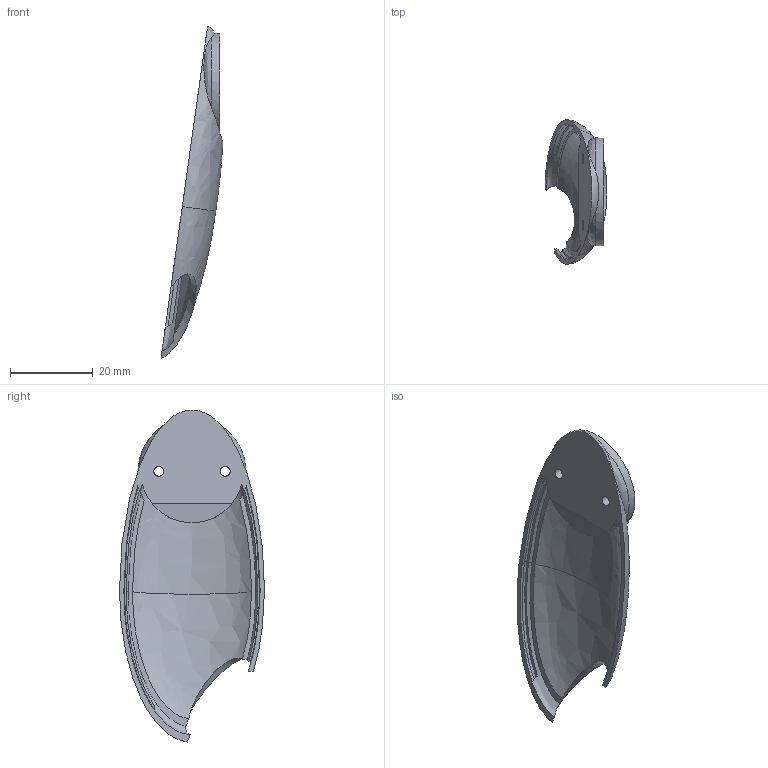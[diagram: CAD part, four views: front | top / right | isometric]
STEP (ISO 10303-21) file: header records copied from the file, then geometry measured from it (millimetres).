
FILE_DESCRIPTION(('Open CASCADE Model'),'2;1');
FILE_NAME('Open CASCADE Shape Model','2026-11-01T16:33:31',('Author'),( 'Open CASCADE'),'Open CASCADE STEP processor 8.0','build123d', 'Unknown');
FILE_SCHEMA(('AUTOMOTIVE_DESIGN { 1 0 10303 214 1 1 1 1 }'));
Length unit declared in the file: millimetre
Products named in the file (1): COMPOUND
Bounding box: 14.95 x 34.98 x 80.08 mm (x, y, z)
Volume: 3986.9 mm3; surface area: 5412.7 mm2
Topology: 1 solids, 1 shells, 38 faces, 110 edges, 73 vertices
Faces by surface type: bspline 17, plane 11, cylinder 8, revolution 2
Full cylindrical faces by diameter (mm): 2.4 x2, 22.4 x1
Entity records: 25768 total; most frequent: CARTESIAN_POINT 24154, B_SPLINE_CURVE_WITH_KNOTS 246, ORIENTED_EDGE 218, PCURVE 218, DEFINITIONAL_REPRESENTATION 218, DIRECTION 123, EDGE_CURVE 109, SURFACE_CURVE 106
